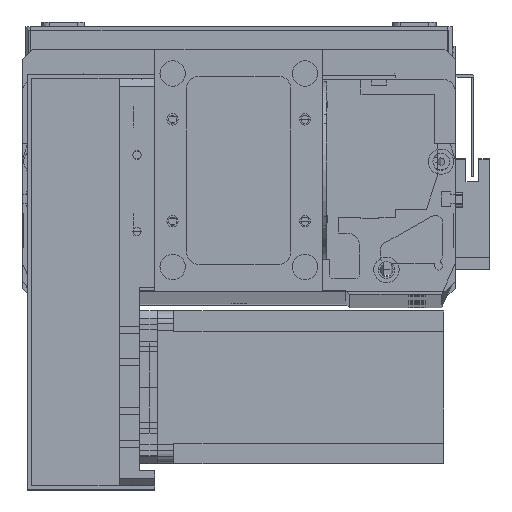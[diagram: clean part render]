
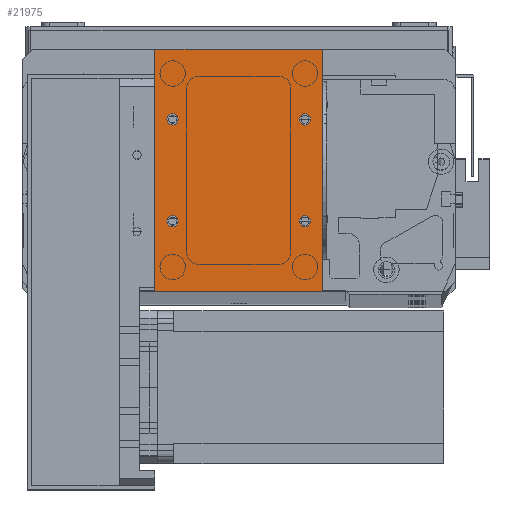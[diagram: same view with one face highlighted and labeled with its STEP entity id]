
A CAD part, top view. The second image highlights one B-rep face of the part: STEP entity #21975.
In plain terms, the highlighted planar face has unit normal (0, 0, 1).
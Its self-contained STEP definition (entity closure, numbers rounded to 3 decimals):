
#30 = DIRECTION ( 'NONE',  ( 1., 0., 0. ) ) ;
#139 = VERTEX_POINT ( 'NONE', #25068 ) ;
#703 = AXIS2_PLACEMENT_3D ( 'NONE', #30191, #14308, #32761 ) ;
#943 = EDGE_CURVE ( 'NONE', #29939, #14804, #5899, .T. ) ;
#1125 = DIRECTION ( 'NONE',  ( 0., 0., 1. ) ) ;
#1587 = CARTESIAN_POINT ( 'NONE',  ( 61.25, 67.5, 2. ) ) ;
#1764 = CARTESIAN_POINT ( 'NONE',  ( 66., 95., 2. ) ) ;
#2900 = CARTESIAN_POINT ( 'NONE',  ( 9.25, 67.5, 2. ) ) ;
#2963 = LINE ( 'NONE', #8178, #22984 ) ;
#3542 = CARTESIAN_POINT ( 'NONE',  ( 66., 0., 2. ) ) ;
#3680 = ORIENTED_EDGE ( 'NONE', *, *, #32056, .F. ) ;
#3736 = ORIENTED_EDGE ( 'NONE', *, *, #17306, .F. ) ;
#3910 = AXIS2_PLACEMENT_3D ( 'NONE', #6923, #12418, #31032 ) ;
#4103 = CARTESIAN_POINT ( 'NONE',  ( 56.75, 67.5, 2. ) ) ;
#4313 = FACE_BOUND ( 'NONE', #18453, .T. ) ;
#4357 = EDGE_LOOP ( 'NONE', ( #15324, #3680 ) ) ;
#4377 = CIRCLE ( 'NONE', #15566, 2.25 ) ;
#4432 = EDGE_LOOP ( 'NONE', ( #5824, #26943, #12308, #29244 ) ) ;
#4503 = EDGE_LOOP ( 'NONE', ( #13072, #26062 ) ) ;
#5173 = FACE_BOUND ( 'NONE', #5269, .T. ) ;
#5269 = EDGE_LOOP ( 'NONE', ( #12698, #22030 ) ) ;
#5655 = VERTEX_POINT ( 'NONE', #2900 ) ;
#5824 = ORIENTED_EDGE ( 'NONE', *, *, #26970, .T. ) ;
#5899 = CIRCLE ( 'NONE', #11823, 2.25 ) ;
#5918 = DIRECTION ( 'NONE',  ( 0., 0., 1. ) ) ;
#6648 = AXIS2_PLACEMENT_3D ( 'NONE', #13491, #32026, #16192 ) ;
#6923 = CARTESIAN_POINT ( 'NONE',  ( 0., 0., 2. ) ) ;
#7623 = AXIS2_PLACEMENT_3D ( 'NONE', #32305, #16492, #30 ) ;
#7775 = DIRECTION ( 'NONE',  ( -1., 0., 0. ) ) ;
#8178 = CARTESIAN_POINT ( 'NONE',  ( 0., 95., 2. ) ) ;
#8265 = EDGE_CURVE ( 'NONE', #27815, #18629, #27628, .T. ) ;
#8613 = CARTESIAN_POINT ( 'NONE',  ( 59., 67.5, 2. ) ) ;
#8830 = DIRECTION ( 'NONE',  ( 1., 0., 0. ) ) ;
#8888 = CIRCLE ( 'NONE', #7623, 2.25 ) ;
#9087 = DIRECTION ( 'NONE',  ( 0., 1., 0. ) ) ;
#9192 = VECTOR ( 'NONE', #31618, 1000. ) ;
#9341 = VECTOR ( 'NONE', #8830, 1000. ) ;
#9562 = CARTESIAN_POINT ( 'NONE',  ( 0., 0., 2. ) ) ;
#9568 = EDGE_CURVE ( 'NONE', #29941, #10362, #2963, .T. ) ;
#10362 = VERTEX_POINT ( 'NONE', #19170 ) ;
#10758 = DIRECTION ( 'NONE',  ( 1., 0., 0. ) ) ;
#10808 = DIRECTION ( 'NONE',  ( 0., 0., 1. ) ) ;
#10842 = CARTESIAN_POINT ( 'NONE',  ( 7., 27.5, 2. ) ) ;
#11120 = VERTEX_POINT ( 'NONE', #4103 ) ;
#11323 = DIRECTION ( 'NONE',  ( 1., 0., 0. ) ) ;
#11470 = CARTESIAN_POINT ( 'NONE',  ( 0., 0., 2. ) ) ;
#11600 = FACE_BOUND ( 'NONE', #4503, .T. ) ;
#11823 = AXIS2_PLACEMENT_3D ( 'NONE', #10842, #10808, #10758 ) ;
#12132 = VERTEX_POINT ( 'NONE', #1587 ) ;
#12308 = ORIENTED_EDGE ( 'NONE', *, *, #19888, .T. ) ;
#12414 = VERTEX_POINT ( 'NONE', #30349 ) ;
#12418 = DIRECTION ( 'NONE',  ( 0., 0., -1. ) ) ;
#12698 = ORIENTED_EDGE ( 'NONE', *, *, #21728, .F. ) ;
#13070 = CARTESIAN_POINT ( 'NONE',  ( 0., 0., 2. ) ) ;
#13072 = ORIENTED_EDGE ( 'NONE', *, *, #24645, .F. ) ;
#13235 = CIRCLE ( 'NONE', #703, 2.25 ) ;
#13491 = CARTESIAN_POINT ( 'NONE',  ( 7., 67.5, 2. ) ) ;
#14308 = DIRECTION ( 'NONE',  ( 0., 0., 1. ) ) ;
#14804 = VERTEX_POINT ( 'NONE', #31725 ) ;
#15039 = EDGE_CURVE ( 'NONE', #28741, #139, #18298, .T. ) ;
#15324 = ORIENTED_EDGE ( 'NONE', *, *, #8265, .F. ) ;
#15562 = CIRCLE ( 'NONE', #6648, 2.25 ) ;
#15566 = AXIS2_PLACEMENT_3D ( 'NONE', #17566, #1125, #20280 ) ;
#16038 = CIRCLE ( 'NONE', #23065, 2.25 ) ;
#16192 = DIRECTION ( 'NONE',  ( 1., 0., 0. ) ) ;
#16431 = LINE ( 'NONE', #13070, #9192 ) ;
#16492 = DIRECTION ( 'NONE',  ( 0., 0., 1. ) ) ;
#17306 = EDGE_CURVE ( 'NONE', #12414, #5655, #8888, .T. ) ;
#17566 = CARTESIAN_POINT ( 'NONE',  ( 59., 27.5, 2. ) ) ;
#18086 = LINE ( 'NONE', #3542, #30476 ) ;
#18298 = LINE ( 'NONE', #11470, #9341 ) ;
#18453 = EDGE_LOOP ( 'NONE', ( #18734, #3736 ) ) ;
#18629 = VERTEX_POINT ( 'NONE', #22743 ) ;
#18734 = ORIENTED_EDGE ( 'NONE', *, *, #31286, .F. ) ;
#19170 = CARTESIAN_POINT ( 'NONE',  ( 0., 95., 2. ) ) ;
#19888 = EDGE_CURVE ( 'NONE', #139, #29941, #18086, .T. ) ;
#20280 = DIRECTION ( 'NONE',  ( 1., 0., 0. ) ) ;
#20453 = PLANE ( 'NONE',  #3910 ) ;
#21728 = EDGE_CURVE ( 'NONE', #12132, #11120, #32737, .T. ) ;
#21975 = ADVANCED_FACE ( 'NONE', ( #4313, #5173, #25916, #11600, #31996 ), #20453, .F. ) ;
#22030 = ORIENTED_EDGE ( 'NONE', *, *, #26246, .F. ) ;
#22158 = CARTESIAN_POINT ( 'NONE',  ( 59., 67.5, 2. ) ) ;
#22743 = CARTESIAN_POINT ( 'NONE',  ( 56.75, 27.5, 2. ) ) ;
#22984 = VECTOR ( 'NONE', #7775, 1000. ) ;
#23065 = AXIS2_PLACEMENT_3D ( 'NONE', #22158, #5918, #24838 ) ;
#23316 = CARTESIAN_POINT ( 'NONE',  ( 4.75, 27.5, 2. ) ) ;
#24645 = EDGE_CURVE ( 'NONE', #14804, #29939, #13235, .T. ) ;
#24838 = DIRECTION ( 'NONE',  ( 1., 0., 0. ) ) ;
#25068 = CARTESIAN_POINT ( 'NONE',  ( 66., 0., 2. ) ) ;
#25916 = FACE_BOUND ( 'NONE', #4357, .T. ) ;
#26062 = ORIENTED_EDGE ( 'NONE', *, *, #943, .F. ) ;
#26246 = EDGE_CURVE ( 'NONE', #11120, #12132, #16038, .T. ) ;
#26943 = ORIENTED_EDGE ( 'NONE', *, *, #15039, .T. ) ;
#26970 = EDGE_CURVE ( 'NONE', #10362, #28741, #16431, .T. ) ;
#27404 = DIRECTION ( 'NONE',  ( 0., 0., 1. ) ) ;
#27628 = CIRCLE ( 'NONE', #32954, 2.25 ) ;
#27815 = VERTEX_POINT ( 'NONE', #29868 ) ;
#28741 = VERTEX_POINT ( 'NONE', #9562 ) ;
#29244 = ORIENTED_EDGE ( 'NONE', *, *, #9568, .T. ) ;
#29868 = CARTESIAN_POINT ( 'NONE',  ( 61.25, 27.5, 2. ) ) ;
#29939 = VERTEX_POINT ( 'NONE', #23316 ) ;
#29941 = VERTEX_POINT ( 'NONE', #1764 ) ;
#30191 = CARTESIAN_POINT ( 'NONE',  ( 7., 27.5, 2. ) ) ;
#30349 = CARTESIAN_POINT ( 'NONE',  ( 4.75, 67.5, 2. ) ) ;
#30476 = VECTOR ( 'NONE', #9087, 1000. ) ;
#31032 = DIRECTION ( 'NONE',  ( -1., 0., 0. ) ) ;
#31286 = EDGE_CURVE ( 'NONE', #5655, #12414, #15562, .T. ) ;
#31618 = DIRECTION ( 'NONE',  ( 0., -1., 0. ) ) ;
#31725 = CARTESIAN_POINT ( 'NONE',  ( 9.25, 27.5, 2. ) ) ;
#31996 = FACE_OUTER_BOUND ( 'NONE', #4432, .T. ) ;
#32026 = DIRECTION ( 'NONE',  ( 0., 0., 1. ) ) ;
#32056 = EDGE_CURVE ( 'NONE', #18629, #27815, #4377, .T. ) ;
#32305 = CARTESIAN_POINT ( 'NONE',  ( 7., 67.5, 2. ) ) ;
#32737 = CIRCLE ( 'NONE', #33929, 2.25 ) ;
#32761 = DIRECTION ( 'NONE',  ( 1., 0., 0. ) ) ;
#32954 = AXIS2_PLACEMENT_3D ( 'NONE', #33417, #33368, #33292 ) ;
#33292 = DIRECTION ( 'NONE',  ( 1., 0., 0. ) ) ;
#33368 = DIRECTION ( 'NONE',  ( 0., 0., 1. ) ) ;
#33417 = CARTESIAN_POINT ( 'NONE',  ( 59., 27.5, 2. ) ) ;
#33929 = AXIS2_PLACEMENT_3D ( 'NONE', #8613, #27404, #11323 ) ;
